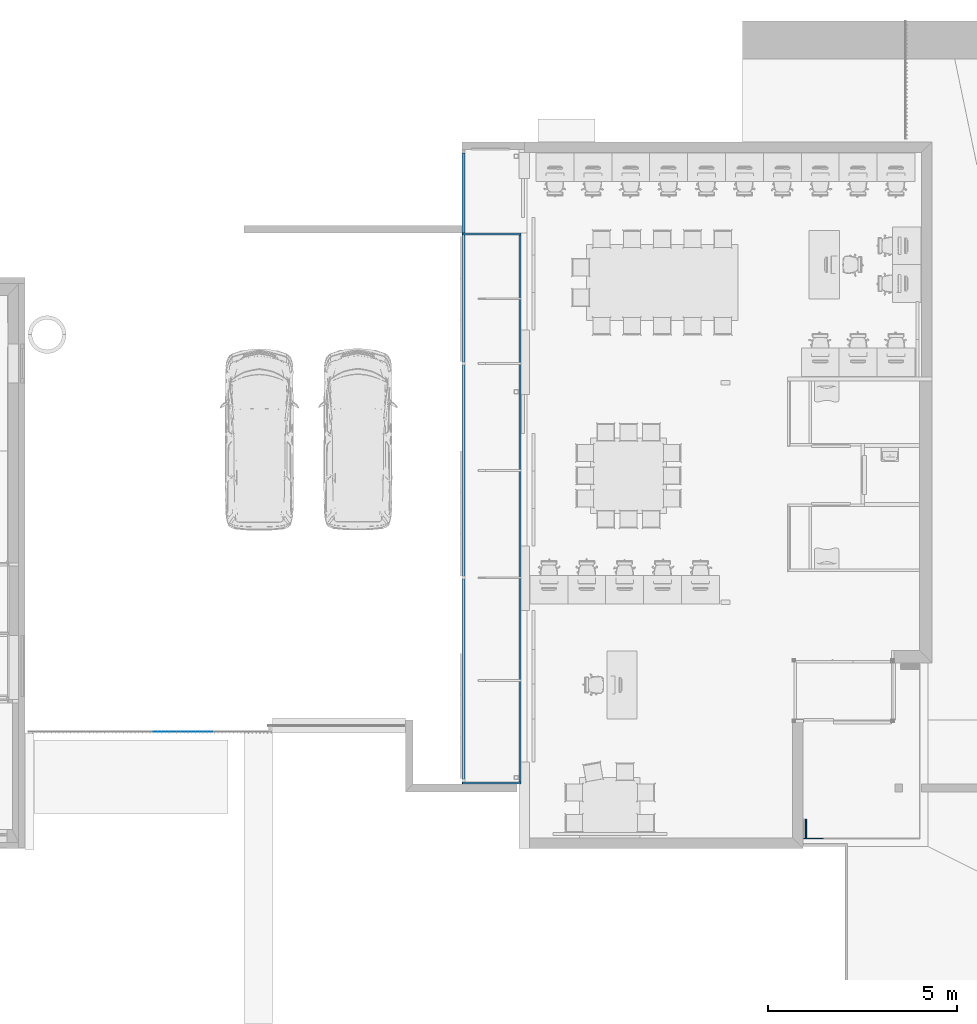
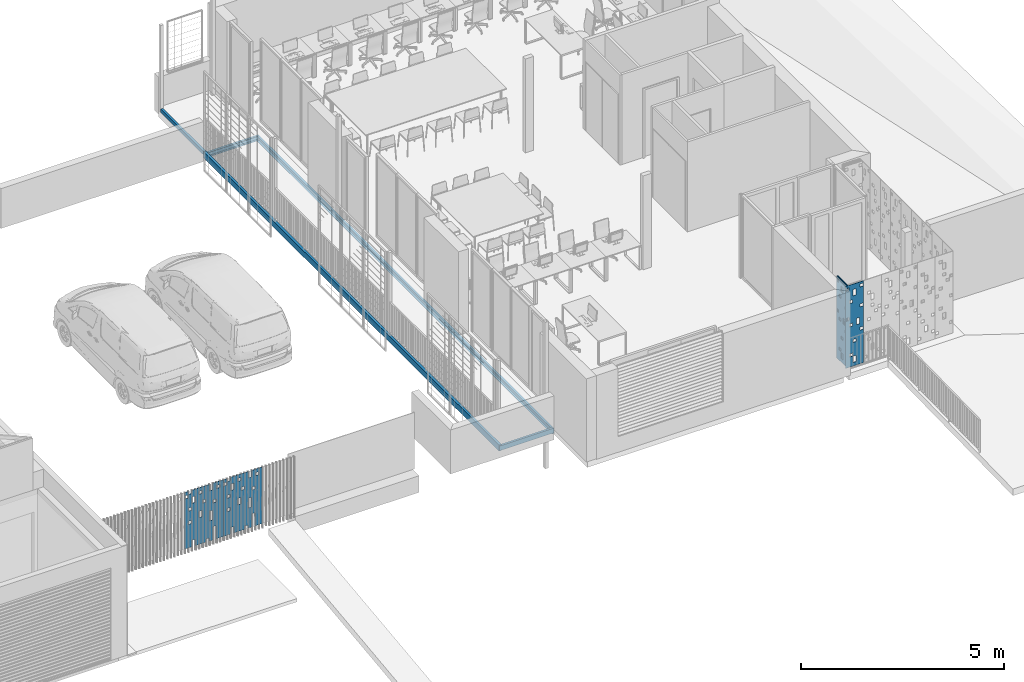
# One storey, part 6 of 51: 11 beams.
"""IFC2X3 building model written with IfcOpenShell, lengths in metres."""

from ifc_helpers import new_model, entity, si_unit, converted_unit, derived_unit, direction, frame, origin, place, context, subcontext, project, spatial, polyline, outline, extrude, material, type_object, element, save


model = new_model("IFC2X3")

# Units and contexts
model_context = context("Model", 3, precision=1e-05, world=origin(), true_north=direction((6.123031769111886e-17, 1.0)))
body_context = subcontext(model_context, "Body", "Model", "MODEL_VIEW")
ifc_project = project(units=[si_unit("LENGTHUNIT", "METRE"), si_unit("AREAUNIT", "SQUARE_METRE"), si_unit("VOLUMEUNIT", "CUBIC_METRE"), converted_unit("PLANEANGLEUNIT", "DEGREE", entity("IfcRatioMeasure", 0.017453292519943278), si_unit("PLANEANGLEUNIT", "RADIAN"), dimensions=[0, 0, 0, 0, 0, 0, 0]), si_unit("MASSUNIT", "GRAM", prefix="KILO"), derived_unit("MASSDENSITYUNIT", [(si_unit("MASSUNIT", "GRAM", prefix="KILO"), 1), (si_unit("LENGTHUNIT", "METRE"), -3)]), derived_unit("MOMENTOFINERTIAUNIT", [(si_unit("LENGTHUNIT", "METRE"), 4)]), si_unit("TIMEUNIT", "SECOND"), si_unit("FREQUENCYUNIT", "HERTZ"), si_unit("THERMODYNAMICTEMPERATUREUNIT", "DEGREE_CELSIUS"), derived_unit("THERMALTRANSMITTANCEUNIT", [(si_unit("MASSUNIT", "GRAM", prefix="KILO"), 1), (si_unit("THERMODYNAMICTEMPERATUREUNIT", "KELVIN"), -1), (si_unit("TIMEUNIT", "SECOND"), -3)]), derived_unit("THERMALCONDUCTANCEUNIT", [(si_unit("MASSUNIT", "GRAM", prefix="KILO"), 1), (si_unit("LENGTHUNIT", "METRE"), 1), (si_unit("THERMODYNAMICTEMPERATUREUNIT", "KELVIN"), -1), (si_unit("TIMEUNIT", "SECOND"), -3)]), derived_unit("VOLUMETRICFLOWRATEUNIT", [(si_unit("LENGTHUNIT", "METRE"), 3), (si_unit("TIMEUNIT", "SECOND"), -1)]), derived_unit("MASSFLOWRATEUNIT", [(si_unit("MASSUNIT", "GRAM", prefix="KILO"), 1), (si_unit("TIMEUNIT", "SECOND"), -1)]), derived_unit("ROTATIONALFREQUENCYUNIT", [(si_unit("TIMEUNIT", "SECOND"), -1)]), si_unit("ELECTRICCURRENTUNIT", "AMPERE"), si_unit("ELECTRICVOLTAGEUNIT", "VOLT"), si_unit("POWERUNIT", "WATT"), si_unit("FORCEUNIT", "NEWTON", prefix="KILO"), si_unit("ILLUMINANCEUNIT", "LUX"), si_unit("LUMINOUSFLUXUNIT", "LUMEN"), si_unit("LUMINOUSINTENSITYUNIT", "CANDELA"), derived_unit("USERDEFINED", [(si_unit("MASSUNIT", "GRAM", prefix="KILO"), -1), (si_unit("LENGTHUNIT", "METRE"), -2), (si_unit("TIMEUNIT", "SECOND"), 3), (si_unit("LUMINOUSFLUXUNIT", "LUMEN"), 1)]), derived_unit("USERDEFINED", [(si_unit("MASSUNIT", "GRAM", prefix="KILO"), 1), (si_unit("LENGTHUNIT", "METRE"), 3), (si_unit("TIMEUNIT", "SECOND"), -3), (si_unit("ELECTRICCURRENTUNIT", "AMPERE"), -2)]), derived_unit("USERDEFINED", [(si_unit("LENGTHUNIT", "METRE"), 2), (si_unit("TIMEUNIT", "SECOND"), -2)]), derived_unit("SOUNDPOWERUNIT", [(si_unit("MASSUNIT", "GRAM", prefix="KILO"), 1), (si_unit("LENGTHUNIT", "METRE"), 2), (si_unit("TIMEUNIT", "SECOND"), -3)]), derived_unit("SOUNDPRESSUREUNIT", [(si_unit("MASSUNIT", "GRAM", prefix="KILO"), 1), (si_unit("LENGTHUNIT", "METRE"), -1), (si_unit("TIMEUNIT", "SECOND"), -2)]), derived_unit("LINEARVELOCITYUNIT", [(si_unit("LENGTHUNIT", "METRE"), 1), (si_unit("TIMEUNIT", "SECOND"), -1)]), si_unit("PRESSUREUNIT", "PASCAL"), derived_unit("USERDEFINED", [(si_unit("LENGTHUNIT", "METRE"), -2), (si_unit("MASSUNIT", "GRAM", prefix="KILO"), 1), (si_unit("TIMEUNIT", "SECOND"), -2)]), derived_unit("LINEARFORCEUNIT", [(si_unit("MASSUNIT", "GRAM", prefix="KILO"), 1), (si_unit("LENGTHUNIT", "METRE"), 1), (si_unit("TIMEUNIT", "SECOND"), -2), (si_unit("LENGTHUNIT", "METRE"), -1)]), derived_unit("PLANARFORCEUNIT", [(si_unit("MASSUNIT", "GRAM", prefix="KILO"), 1), (si_unit("LENGTHUNIT", "METRE"), 1), (si_unit("TIMEUNIT", "SECOND"), -2), (si_unit("LENGTHUNIT", "METRE"), -2)]), derived_unit("SPECIFICHEATCAPACITYUNIT", [(si_unit("LENGTHUNIT", "METRE"), 2), (si_unit("TIMEUNIT", "SECOND"), -2), (si_unit("THERMODYNAMICTEMPERATUREUNIT", "KELVIN"), -1)]), derived_unit("VAPORPERMEABILITYUNIT", [(si_unit("TIMEUNIT", "SECOND"), 1), (si_unit("LENGTHUNIT", "METRE"), -1)]), derived_unit("DYNAMICVISCOSITYUNIT", [(si_unit("MASSUNIT", "GRAM", prefix="KILO"), 1), (si_unit("LENGTHUNIT", "METRE"), -1), (si_unit("TIMEUNIT", "SECOND"), -1)]), derived_unit("THERMALEXPANSIONCOEFFICIENTUNIT", [(si_unit("THERMODYNAMICTEMPERATUREUNIT", "KELVIN"), -1)])], contexts=[model_context])

# Site, building, storey
site_placement = place(None, origin())
site = spatial("IfcSite", under=ifc_project, at=site_placement, Name="Default", CompositionType="ELEMENT")
building_placement = place(site_placement, origin())
building = spatial("IfcBuilding", under=site, at=building_placement, CompositionType="ELEMENT")
storey_placement = place(building_placement, frame((0.0, 0.0, 3.06)))
storey = spatial("IfcBuildingStorey", under=building, at=storey_placement, Name="ÉTAGE", CompositionType="ELEMENT", Elevation=3.06)

# Beams
ifc_material = material(Name="Peinture - Gris foncé")
beam_type_1 = type_object("IfcBeamType", Name="Poutre-017 459038:Poutre-017 459038", PredefinedType="NOTDEFINED")
beam_1_placement = place(storey_placement, origin())
element("IfcBeam", 1, at=beam_1_placement, inside=storey, type_object=beam_type_1, material=ifc_material, Name="Poutre-017", ObjectType="Poutre-017 459038:Poutre-017 459038", context=body_context, shape_type="SweptSolid", body=[
    extrude(outline(polyline([(-0.25500000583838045, -1.2299999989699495), (0.25500000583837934, -1.2299999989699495), (0.25500000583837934, 1.2299999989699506), (-0.25500000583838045, 1.2299999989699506), (-0.25500000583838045, -1.2299999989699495)]), holes=[polyline([(-0.24499999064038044, -0.03500001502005), (-0.1550000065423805, -0.03500001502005), (-0.1550000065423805, -0.1250000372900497), (-0.24499999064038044, -0.1250000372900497), (-0.24499999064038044, -0.03500001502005)]), polyline([(0.15499996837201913, -1.0349999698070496), (0.24500002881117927, -1.0349999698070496), (0.24500002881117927, -1.1250000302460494), (0.15499996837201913, -1.1250000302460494), (0.15499996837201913, -1.0349999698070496)]), polyline([(0.14499999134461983, -0.33499997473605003), (0.14499999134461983, -0.4250000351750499), (0.05499996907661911, -0.4250000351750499), (0.05499996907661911, -0.33499997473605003), (0.14499999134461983, -0.33499997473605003)]), polyline([(0.04499999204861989, -0.7249999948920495), (-0.04499999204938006, -0.7249999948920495), (-0.04499999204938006, -0.5350000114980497), (0.04499999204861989, -0.5350000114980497), (0.04499999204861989, -0.7249999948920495)]), polyline([(-0.1550000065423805, -0.8350000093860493), (-0.1550000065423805, -0.9250000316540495), (-0.24499999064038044, -0.9250000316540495), (-0.24499999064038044, -0.8350000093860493), (-0.1550000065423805, -0.8350000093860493)]), polyline([(0.05499996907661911, 1.06499997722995), (0.14499999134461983, 1.06499997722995), (0.14499999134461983, 0.9749999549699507), (0.05499996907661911, 0.9749999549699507), (0.05499996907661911, 1.06499997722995)]), polyline([(0.15499996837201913, 0.06499998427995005), (0.24500002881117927, 0.06499998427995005), (0.24500002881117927, -0.02500007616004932), (0.15499996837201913, -0.02500007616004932), (0.15499996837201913, 0.06499998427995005)]), polyline([(0.14499999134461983, 0.17499996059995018), (0.05499996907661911, 0.17499996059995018), (0.05499996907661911, 0.26500002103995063), (0.14499999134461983, 0.26500002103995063), (0.14499999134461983, 0.17499996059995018)]), polyline([(-0.04499999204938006, 0.6650000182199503), (0.04499999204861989, 0.6650000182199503), (0.04499999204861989, 0.5749999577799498), (-0.04499999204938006, 0.5749999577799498), (-0.04499999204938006, 0.6650000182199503)]), polyline([(0.04499999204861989, 0.9650000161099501), (0.04499999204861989, 0.7749999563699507), (-0.04499999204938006, 0.7749999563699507), (-0.04499999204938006, 0.9650000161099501), (0.04499999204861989, 0.9650000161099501)]), polyline([(-0.05500000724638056, 0.37499995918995), (-0.14499999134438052, 0.37499995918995), (-0.14499999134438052, 0.4650000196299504), (-0.05500000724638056, 0.4650000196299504), (-0.05500000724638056, 0.37499995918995)]), polyline([(-0.1550000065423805, 0.5650000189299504), (-0.1550000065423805, 0.4749999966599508), (-0.24499999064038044, 0.4749999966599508), (-0.24499999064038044, 0.5650000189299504), (-0.1550000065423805, 0.5650000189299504)])]), frame((148.990752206, 8.10720949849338, 2.460000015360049), z_axis=(1.0, 0.0, 0.0), x_axis=(0.0, 1.0, 0.0)), (0.0, 0.0, 1.0), 0.009999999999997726),
])
beam_type_2 = type_object("IfcBeamType", Name="Poutre-017 458855:Poutre-017 458855", PredefinedType="NOTDEFINED")
beam_2_placement = place(storey_placement, origin())
element("IfcBeam", 2, at=beam_2_placement, inside=storey, type_object=beam_type_2, material=ifc_material, Name="Poutre-017", ObjectType="Poutre-017 458855:Poutre-017 458855", context=body_context, shape_type="SweptSolid", body=[
    extrude(outline(polyline([(-1.2299999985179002, -0.25500001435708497), (1.2299999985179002, -0.25500001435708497), (1.2299999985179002, 0.25500001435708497), (-1.2299999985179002, 0.25500001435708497), (-1.2299999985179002, -0.25500001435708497)]), holes=[polyline([(0.42500001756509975, -0.24500001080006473), (0.33499998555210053, -0.24500001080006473), (0.33499998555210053, -0.15499994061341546), (0.42500001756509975, -0.15499994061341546), (0.42500001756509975, -0.24500001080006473)]), polyline([(1.0349999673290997, -0.15499994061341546), (1.1249999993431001, -0.15499994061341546), (1.1249999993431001, -0.24500001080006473), (1.0349999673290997, -0.24500001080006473), (1.0349999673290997, -0.15499994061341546)]), polyline([(0.5349999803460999, -0.1449999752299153), (0.5349999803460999, -0.054999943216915), (0.6250000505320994, -0.054999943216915), (0.6250000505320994, -0.1449999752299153), (0.5349999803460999, -0.1449999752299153)]), polyline([(0.7350000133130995, 0.04499997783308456), (0.9250000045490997, 0.04499997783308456), (0.9250000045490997, -0.044999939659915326), (0.7350000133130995, -0.044999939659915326), (0.7350000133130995, 0.04499997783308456)]), polyline([(0.4349999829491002, 0.154999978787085), (0.4349999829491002, 0.2450000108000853), (0.5250000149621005, 0.2450000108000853), (0.5250000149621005, 0.154999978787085), (0.4349999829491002, 0.154999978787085)]), polyline([(0.9349999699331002, 0.154999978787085), (0.9349999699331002, 0.2450000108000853), (1.0250000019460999, 0.2450000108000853), (1.0250000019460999, 0.154999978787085), (0.9349999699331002, 0.154999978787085)]), polyline([(-0.7749999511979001, -0.1449999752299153), (-0.8649999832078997, -0.1449999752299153), (-0.8649999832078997, -0.054999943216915), (-0.7749999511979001, -0.054999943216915), (-0.7749999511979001, -0.1449999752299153)]), polyline([(-0.06500004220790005, -0.1449999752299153), (-0.06500004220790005, -0.054999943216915), (0.024999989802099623, -0.054999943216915), (0.024999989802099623, -0.1449999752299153), (-0.06500004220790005, -0.1449999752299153)]), polyline([(-0.4650000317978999, 0.04499997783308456), (-0.3749999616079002, 0.04499997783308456), (-0.3749999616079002, -0.044999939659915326), (-0.4650000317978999, -0.044999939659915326), (-0.4650000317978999, 0.04499997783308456)]), polyline([(-0.5749999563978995, -0.044999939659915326), (-0.7650000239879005, -0.044999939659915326), (-0.7650000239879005, 0.04499997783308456), (-0.5749999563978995, 0.04499997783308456), (-0.5749999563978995, -0.044999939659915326)]), polyline([(-0.17499996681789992, 0.055000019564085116), (-0.2649999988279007, 0.055000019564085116), (-0.2649999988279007, 0.14499997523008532), (-0.17499996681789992, 0.14499997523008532), (-0.17499996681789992, 0.055000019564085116)]), polyline([(-0.27499996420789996, 0.154999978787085), (-0.3649999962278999, 0.154999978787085), (-0.3649999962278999, 0.2450000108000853), (-0.27499996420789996, 0.2450000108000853), (-0.27499996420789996, 0.154999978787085)])]), frame((148.97575220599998, 8.107209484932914, 2.4600000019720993), z_axis=(1.0, 0.0, 0.0), x_axis=(0.0, 0.0, -1.0)), (0.0, 0.0, 1.0), 0.009999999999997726),
])
beam_type_3 = type_object("IfcBeamType", Name="Poutre-017 458672:Poutre-017 458672", PredefinedType="NOTDEFINED")
beam_3_placement = place(storey_placement, origin())
element("IfcBeam", 3, at=beam_3_placement, inside=storey, type_object=beam_type_3, material=ifc_material, Name="Poutre-017", ObjectType="Poutre-017 458672:Poutre-017 458672", context=body_context, shape_type="SweptSolid", body=[
    extrude(outline(polyline([(-0.25499999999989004, -1.2299999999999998), (0.2549999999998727, -1.2299999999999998), (0.2549999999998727, 1.2299999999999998), (-0.25499999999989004, 1.2299999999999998), (-0.25499999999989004, -1.2299999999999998)]), holes=[polyline([(0.14499996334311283, -0.9249999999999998), (0.05499996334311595, -0.9249999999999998), (0.05499996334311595, -0.8349999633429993), (0.14499996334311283, -0.8349999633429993), (0.14499996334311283, -0.9249999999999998)]), polyline([(0.044999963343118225, -0.43499996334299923), (0.044999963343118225, -0.5250000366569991), (-0.04499999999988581, -0.5250000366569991), (-0.04499999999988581, -0.43499996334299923), (0.044999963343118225, -0.43499996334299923)]), polyline([(0.044999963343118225, -1.1250000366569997), (-0.04499999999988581, -1.1250000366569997), (-0.04499999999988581, -0.9349999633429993), (0.044999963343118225, -0.9349999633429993), (0.044999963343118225, -1.1250000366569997)]), polyline([(-0.15499999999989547, -0.13499999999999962), (-0.15499999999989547, -0.22499999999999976), (-0.24499999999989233, -0.22499999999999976), (-0.24499999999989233, -0.13499999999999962), (-0.15499999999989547, -0.13499999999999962)]), polyline([(-0.04499999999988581, 1.0650000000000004), (0.044999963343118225, 1.0650000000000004), (0.044999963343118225, 0.8750000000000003), (-0.04499999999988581, 0.8750000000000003), (-0.04499999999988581, 1.0650000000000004)]), polyline([(0.244999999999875, 1.1650000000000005), (0.244999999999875, 1.0749999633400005), (0.15499996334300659, 1.0749999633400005), (0.15499996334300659, 1.1650000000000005), (0.244999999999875, 1.1650000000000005)]), polyline([(-0.15499999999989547, 1.0749999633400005), (-0.24499999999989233, 1.0749999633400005), (-0.24499999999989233, 1.1650000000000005), (-0.15499999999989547, 1.1650000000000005), (-0.15499999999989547, 1.0749999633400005)]), polyline([(0.244999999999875, 0.1750000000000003), (0.15499996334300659, 0.1750000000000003), (0.15499996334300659, 0.2650000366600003), (0.244999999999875, 0.2650000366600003), (0.244999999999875, 0.1750000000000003)]), polyline([(0.14499996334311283, -0.025000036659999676), (0.05499996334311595, -0.025000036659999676), (0.05499996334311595, 0.06500000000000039), (0.14499996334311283, 0.06500000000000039), (0.14499996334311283, -0.025000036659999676)]), polyline([(0.14499996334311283, 0.6749999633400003), (0.05499996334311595, 0.6749999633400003), (0.05499996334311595, 0.7650000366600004), (0.14499996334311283, 0.7650000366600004), (0.14499996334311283, 0.6749999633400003)]), polyline([(-0.055000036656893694, -0.02499999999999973), (-0.14499999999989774, -0.02499999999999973), (-0.14499999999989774, 0.16500003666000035), (-0.055000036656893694, 0.16500003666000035), (-0.055000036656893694, -0.02499999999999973)]), polyline([(-0.15499999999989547, 0.5650000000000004), (-0.15499999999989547, 0.4750000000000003), (-0.24499999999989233, 0.4750000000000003), (-0.24499999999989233, 0.5650000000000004), (-0.15499999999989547, 0.5650000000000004)])]), frame((149.1707522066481, 7.85220950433, 2.459999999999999), z_axis=(0.0, 1.0, 0.0), x_axis=(-1.0, 0.0, 0.0)), (0.0, 0.0, 1.0), 0.009999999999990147),
])
beam_4_placement = place(storey_placement, origin())
element("IfcBeam", 4, at=beam_4_placement, inside=storey, type_object=beam_type_3, material=ifc_material, Name="Poutre-017", ObjectType="Poutre-017 458672:Poutre-017 458672", context=body_context, shape_type="SweptSolid", body=[
    extrude(outline(polyline([(-0.2549999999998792, -1.2299999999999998), (0.2549999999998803, -1.2299999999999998), (0.2549999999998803, 1.2299999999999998), (-0.2549999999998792, 1.2299999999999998), (-0.2549999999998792, -1.2299999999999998)]), holes=[polyline([(0.1449999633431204, -0.9249999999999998), (0.05499996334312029, -0.9249999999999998), (0.05499996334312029, -0.8349999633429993), (0.1449999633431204, -0.8349999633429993), (0.1449999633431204, -0.9249999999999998)]), polyline([(0.04499996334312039, -0.43499996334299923), (0.04499996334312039, -0.5250000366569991), (-0.04499999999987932, -0.5250000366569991), (-0.04499999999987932, -0.43499996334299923), (0.04499996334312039, -0.43499996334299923)]), polyline([(0.04499996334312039, -1.1250000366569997), (-0.04499999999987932, -1.1250000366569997), (-0.04499999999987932, -0.9349999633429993), (0.04499996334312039, -0.9349999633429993), (0.04499996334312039, -1.1250000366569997)]), polyline([(-0.1549999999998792, -0.13499999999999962), (-0.1549999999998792, -0.22499999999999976), (-0.24499999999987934, -0.22499999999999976), (-0.24499999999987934, -0.13499999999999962), (-0.1549999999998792, -0.13499999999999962)]), polyline([(-0.04499999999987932, 1.0650000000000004), (0.04499996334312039, 1.0650000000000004), (0.04499996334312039, 0.8750000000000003), (-0.04499999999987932, 0.8750000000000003), (-0.04499999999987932, 1.0650000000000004)]), polyline([(0.24499999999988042, 1.1650000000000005), (0.24499999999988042, 1.0749999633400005), (0.15499996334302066, 1.0749999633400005), (0.15499996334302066, 1.1650000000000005), (0.24499999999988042, 1.1650000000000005)]), polyline([(-0.1549999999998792, 1.0749999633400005), (-0.24499999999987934, 1.0749999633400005), (-0.24499999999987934, 1.1650000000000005), (-0.1549999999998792, 1.1650000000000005), (-0.1549999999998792, 1.0749999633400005)]), polyline([(0.24499999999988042, 0.1750000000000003), (0.15499996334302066, 0.1750000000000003), (0.15499996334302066, 0.2650000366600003), (0.24499999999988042, 0.2650000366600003), (0.24499999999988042, 0.1750000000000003)]), polyline([(0.1449999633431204, -0.025000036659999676), (0.05499996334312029, -0.025000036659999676), (0.05499996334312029, 0.06500000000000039), (0.1449999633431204, 0.06500000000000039), (0.1449999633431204, -0.025000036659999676)]), polyline([(0.1449999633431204, 0.6749999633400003), (0.05499996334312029, 0.6749999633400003), (0.05499996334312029, 0.7650000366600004), (0.1449999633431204, 0.7650000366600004), (0.1449999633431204, 0.6749999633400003)]), polyline([(-0.055000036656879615, -0.02499999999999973), (-0.14499999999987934, -0.02499999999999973), (-0.14499999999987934, 0.16500003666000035), (-0.055000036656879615, 0.16500003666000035), (-0.055000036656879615, -0.02499999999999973)]), polyline([(-0.1549999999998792, 0.5650000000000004), (-0.1549999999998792, 0.4750000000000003), (-0.24499999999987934, 0.4750000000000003), (-0.24499999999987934, 0.5650000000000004), (-0.1549999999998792, 0.5650000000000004)])]), frame((148.960752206, 8.10720948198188, 2.459999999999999), z_axis=(1.0, 0.0, 0.0), x_axis=(0.0, 1.0, 0.0)), (0.0, 0.0, 1.0), 0.009999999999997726),
])
beam_type_4 = type_object("IfcBeamType", Name="Poutre-017 448176:Poutre-017 448176", PredefinedType="NOTDEFINED")
beam_5_placement = place(storey_placement, origin())
element("IfcBeam", 5, at=beam_5_placement, inside=storey, type_object=beam_type_4, material=ifc_material, Name="Poutre-017", ObjectType="Poutre-017 448176:Poutre-017 448176", context=body_context, shape_type="SweptSolid", body=[
    extrude(outline(polyline([(-0.5333333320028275, -0.9587500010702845), (-0.42833333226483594, -0.9587500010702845), (-0.42833333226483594, -0.8637500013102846), (-0.3383333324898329, -0.8637500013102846), (-0.3383333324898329, -0.9587500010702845), (0.1716666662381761, -0.9587500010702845), (0.1716666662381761, -0.7637500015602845), (0.26166666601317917, -0.7637500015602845), (0.26166666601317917, -0.9587500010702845), (0.5666666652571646, -0.9587500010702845), (0.5666666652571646, 0.7412499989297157), (0.3616666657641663, 0.7412499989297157), (0.3616666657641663, 0.3462499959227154), (0.2716666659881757, 0.3462499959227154), (0.2716666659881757, 0.7412499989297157), (0.1616666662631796, 0.7412499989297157), (0.1616666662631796, 0.6462499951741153), (0.07166666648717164, 0.6462499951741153), (0.07166666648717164, 0.7412499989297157), (-0.23833333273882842, 0.7412499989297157), (-0.23833333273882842, 0.5462500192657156), (-0.32833333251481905, 0.5462500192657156), (-0.32833333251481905, 0.7412499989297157), (-0.5333333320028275, 0.7412499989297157), (-0.5333333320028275, -0.9587500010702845)]), holes=[polyline([(-0.42833333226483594, 0.036249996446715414), (-0.3383333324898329, 0.036249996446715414), (-0.3383333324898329, -0.0537500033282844), (-0.42833333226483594, -0.0537500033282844), (-0.42833333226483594, 0.036249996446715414)]), polyline([(-0.42833333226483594, -0.4537500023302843), (-0.42833333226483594, -0.36375000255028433), (-0.3383333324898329, -0.36375000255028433), (-0.3383333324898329, -0.4537500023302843), (-0.42833333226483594, -0.4537500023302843)]), polyline([(-0.0383333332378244, -0.2537500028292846), (-0.12833333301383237, -0.2537500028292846), (-0.12833333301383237, -0.06375000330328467), (-0.0383333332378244, -0.06375000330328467), (-0.0383333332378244, -0.2537500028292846)]), polyline([(0.1716666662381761, -0.15375000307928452), (0.1716666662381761, 0.13624999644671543), (0.2616666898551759, 0.13624999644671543), (0.2616666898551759, -0.15375000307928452), (0.1716666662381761, -0.15375000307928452)]), polyline([(0.2716666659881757, -0.4537500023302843), (0.2716666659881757, -0.36375000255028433), (0.3616666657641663, -0.36375000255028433), (0.3616666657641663, -0.4537500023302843), (0.2716666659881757, -0.4537500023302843)]), polyline([(-0.5283333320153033, -0.7637500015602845), (-0.43833333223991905, -0.7637500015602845), (-0.43833333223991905, -0.8537500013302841), (-0.5283333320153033, -0.8537500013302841), (-0.5283333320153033, -0.7637500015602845)]), polyline([(-0.23833333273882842, -0.7537500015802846), (-0.32833333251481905, -0.7537500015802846), (-0.32833333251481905, -0.5637500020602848), (-0.23833333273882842, -0.5637500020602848), (-0.23833333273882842, -0.7537500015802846)]), polyline([(-0.12833333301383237, -0.7637500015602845), (-0.0383333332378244, -0.7637500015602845), (-0.0383333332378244, -0.8537500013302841), (-0.12833333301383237, -0.8537500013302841), (-0.12833333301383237, -0.7637500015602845)]), polyline([(-0.02833333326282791, -0.5537500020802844), (-0.02833333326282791, -0.4637500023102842), (0.06166666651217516, -0.4637500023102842), (0.06166666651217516, -0.5537500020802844), (-0.02833333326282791, -0.5537500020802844)]), polyline([(0.46166666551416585, -0.8537500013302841), (0.3716666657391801, -0.8537500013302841), (0.3716666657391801, -0.7637500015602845), (0.46166666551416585, -0.7637500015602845), (0.46166666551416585, -0.8537500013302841)])]), frame((132.2990856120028, 10.667209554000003, 0.8412499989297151), z_axis=(0.0, 1.0, 0.0), x_axis=(1.0, 0.0, 0.0)), (0.0, 0.0, 1.0), 0.009999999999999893),
])
beam_6_placement = place(storey_placement, origin())
element("IfcBeam", 6, at=beam_6_placement, inside=storey, type_object=beam_type_4, material=ifc_material, Name="Poutre-017", ObjectType="Poutre-017 448176:Poutre-017 448176", context=body_context, shape_type="SweptSolid", body=[
    extrude(outline(polyline([(-0.5333333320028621, -0.9587500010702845), (-0.4283333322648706, -0.9587500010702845), (-0.4283333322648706, -0.8637500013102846), (-0.3383333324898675, -0.8637500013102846), (-0.3383333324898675, -0.9587500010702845), (0.17166666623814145, -0.9587500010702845), (0.17166666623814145, -0.7637500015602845), (0.26166666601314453, -0.7637500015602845), (0.26166666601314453, -0.9587500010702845), (0.5666666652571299, -0.9587500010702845), (0.5666666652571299, 0.7412499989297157), (0.36166666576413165, 0.7412499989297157), (0.36166666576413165, 0.3462499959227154), (0.271666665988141, 0.3462499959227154), (0.271666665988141, 0.7412499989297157), (0.16166666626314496, 0.7412499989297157), (0.16166666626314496, 0.6462499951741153), (0.07166666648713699, 0.6462499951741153), (0.07166666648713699, 0.7412499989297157), (-0.23833333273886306, 0.7412499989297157), (-0.23833333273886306, 0.5462500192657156), (-0.3283333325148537, 0.5462500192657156), (-0.3283333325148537, 0.7412499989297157), (-0.5333333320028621, 0.7412499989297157), (-0.5333333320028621, -0.9587500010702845)]), holes=[polyline([(-0.4283333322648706, 0.036249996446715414), (-0.3383333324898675, 0.036249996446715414), (-0.3383333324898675, -0.0537500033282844), (-0.4283333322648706, -0.0537500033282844), (-0.4283333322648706, 0.036249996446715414)]), polyline([(-0.4283333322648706, -0.4537500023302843), (-0.4283333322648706, -0.36375000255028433), (-0.3383333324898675, -0.36375000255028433), (-0.3383333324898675, -0.4537500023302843), (-0.4283333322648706, -0.4537500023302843)]), polyline([(-0.038333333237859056, -0.2537500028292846), (-0.128333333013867, -0.2537500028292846), (-0.128333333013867, -0.06375000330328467), (-0.038333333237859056, -0.06375000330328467), (-0.038333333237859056, -0.2537500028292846)]), polyline([(0.17166666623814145, -0.15375000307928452), (0.17166666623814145, 0.13624999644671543), (0.26166668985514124, 0.13624999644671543), (0.26166668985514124, -0.15375000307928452), (0.17166666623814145, -0.15375000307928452)]), polyline([(0.271666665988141, -0.4537500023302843), (0.271666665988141, -0.36375000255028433), (0.36166666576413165, -0.36375000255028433), (0.36166666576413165, -0.4537500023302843), (0.271666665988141, -0.4537500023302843)]), polyline([(-0.5283333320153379, -0.7637500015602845), (-0.4383333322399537, -0.7637500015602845), (-0.4383333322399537, -0.8537500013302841), (-0.5283333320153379, -0.8537500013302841), (-0.5283333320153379, -0.7637500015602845)]), polyline([(-0.23833333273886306, -0.7537500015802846), (-0.3283333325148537, -0.7537500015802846), (-0.3283333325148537, -0.5637500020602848), (-0.23833333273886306, -0.5637500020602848), (-0.23833333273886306, -0.7537500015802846)]), polyline([(-0.128333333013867, -0.7637500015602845), (-0.038333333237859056, -0.7637500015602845), (-0.038333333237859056, -0.8537500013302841), (-0.128333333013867, -0.8537500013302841), (-0.128333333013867, -0.7637500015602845)]), polyline([(-0.028333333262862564, -0.5537500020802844), (-0.028333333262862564, -0.4637500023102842), (0.061666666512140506, -0.4637500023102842), (0.061666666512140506, -0.5537500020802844), (-0.028333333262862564, -0.5537500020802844)]), polyline([(0.4616666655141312, -0.8537500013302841), (0.3716666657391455, -0.8537500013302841), (0.3716666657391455, -0.7637500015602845), (0.4616666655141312, -0.7637500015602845), (0.4616666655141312, -0.8537500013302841)])]), frame((133.39908561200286, 10.667209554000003, 0.8412499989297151), z_axis=(0.0, 1.0, 0.0), x_axis=(1.0, 0.0, 0.0)), (0.0, 0.0, 1.0), 0.009999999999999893),
])
beam_type_5 = type_object("IfcBeamType", Name="Poutre-019 150414:Poutre-019 150414", PredefinedType="NOTDEFINED")
beam_7_placement = place(storey_placement, origin())
element("IfcBeam", 7, at=beam_7_placement, inside=storey, type_object=beam_type_5, material=ifc_material, Name="Poutre-019", ObjectType="Poutre-019 150414:Poutre-019 150414", context=body_context, shape_type="SweptSolid", body=[
    extrude(outline(polyline([(0.06300000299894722, -0.02850000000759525), (0.0700000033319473, -0.02850000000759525), (0.0700000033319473, 0.03150000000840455), (-0.07000000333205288, 0.03150000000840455), (-0.07000000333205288, -0.02850000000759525), (-0.06300000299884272, -0.02850000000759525), (-0.06300000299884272, 0.02550000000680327), (0.06300000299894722, 0.02550000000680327), (0.06300000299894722, -0.02850000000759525)])), frame((139.91075227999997, 23.805918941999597, 1.1099999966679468), z_axis=(1.0, 0.0, 0.0), x_axis=(0.0, 0.0, -1.0)), (0.0, 0.0, 1.0), 1.5500001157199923),
])
beam_type_6 = type_object("IfcBeamType", Name="Poutre-019 150363:Poutre-019 150363", PredefinedType="NOTDEFINED")
beam_8_placement = place(storey_placement, origin())
element("IfcBeam", 8, at=beam_8_placement, inside=storey, type_object=beam_type_6, material=ifc_material, Name="Poutre-019", ObjectType="Poutre-019 150363:Poutre-019 150363", context=body_context, shape_type="SweptSolid", body=[
    extrude(outline(polyline([(-0.031500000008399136, -0.0700000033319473), (0.028500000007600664, -0.0700000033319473), (0.028500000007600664, -0.06300000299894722), (-0.02550000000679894, -0.06300000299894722), (-0.02550000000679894, 0.06300000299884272), (0.028500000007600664, 0.06300000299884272), (0.028500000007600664, 0.07000000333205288), (-0.031500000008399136, 0.07000000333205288), (-0.031500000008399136, -0.0700000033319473)])), frame((139.91075227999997, 9.3184999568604, 1.1099999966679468), z_axis=(1.0, 0.0, 0.0), x_axis=(0.0, 1.0, 0.0)), (0.0, 0.0, 1.0), 1.5500001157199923),
])
beam_type_7 = type_object("IfcBeamType", Name="Poutre-019 150027:Poutre-019 150027", PredefinedType="NOTDEFINED")
beam_9_placement = place(storey_placement, origin())
element("IfcBeam", 9, at=beam_9_placement, inside=storey, type_object=beam_type_7, material=ifc_material, Name="Poutre-019", ObjectType="Poutre-019 150027:Poutre-019 150027", context=body_context, shape_type="SweptSolid", body=[
    extrude(outline(polyline([(-0.028500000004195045, -0.07200003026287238), (-0.028500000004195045, -0.0800000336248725), (0.03150000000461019, -0.0800000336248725), (0.03150000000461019, 0.08000003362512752), (-0.028500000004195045, 0.08000003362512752), (-0.028500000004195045, 0.07200003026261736), (0.02550000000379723, 0.07200003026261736), (0.02550000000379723, -0.07200003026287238), (-0.028500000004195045, -0.07200003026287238)])), frame((141.4292523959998, 9.2872095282, 1.0999999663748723), z_axis=(0.0, -1.0, 0.0), x_axis=(1.0, 0.0, 0.0)), (0.0, 0.0, -1.0), 14.549999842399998),
])
beam_type_8 = type_object("IfcBeamType", Name="Poutre-019 56232:Poutre-019 56232", PredefinedType="NOTDEFINED")
beam_10_placement = place(storey_placement, origin())
element("IfcBeam", 10, at=beam_10_placement, inside=storey, type_object=beam_type_8, material=ifc_material, Name="Poutre-019", ObjectType="Poutre-019 56232:Poutre-019 56232", context=body_context, shape_type="SweptSolid", body=[
    extrude(outline(polyline([(0.04500000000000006, -0.03325000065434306), (0.05, -0.03325000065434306), (0.05, 0.036750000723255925), (-0.05, 0.036750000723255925), (-0.05, -0.03325000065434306), (-0.04500000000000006, -0.03325000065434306), (-0.04500000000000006, 0.029750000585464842), (0.04500000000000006, 0.029750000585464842), (0.04500000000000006, -0.03325000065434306)])), frame((139.93750236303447, 23.8372093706, 1.1599999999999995), z_axis=(0.0, 1.0, 0.0), x_axis=(0.0, 0.0, -1.0)), (0.0, 0.0, 1.0), 2.110000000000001),
])
beam_type_9 = type_object("IfcBeamType", Name="Poutre-019 19330:Poutre-019 19330", PredefinedType="NOTDEFINED")
beam_11_placement = place(storey_placement, origin())
element("IfcBeam", 11, at=beam_11_placement, inside=storey, type_object=beam_type_9, material=ifc_material, Name="Poutre-019", ObjectType="Poutre-019 19330:Poutre-019 19330", context=body_context, shape_type="SweptSolid", body=[
    extrude(outline(polyline([(-0.09000029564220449, -0.036750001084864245), (0.09000029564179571, -0.036750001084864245), (0.09000029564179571, 0.03325000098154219), (0.08100026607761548, 0.03325000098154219), (0.08100026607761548, -0.029750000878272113), (-0.08100026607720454, -0.029750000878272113), (-0.08100026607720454, 0.03325000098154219), (-0.09000029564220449, 0.03325000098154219), (-0.09000029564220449, -0.036750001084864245)])), frame((139.93750236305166, 9.2872095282, 1.1199997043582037), z_axis=(0.0, 1.0, 0.0), x_axis=(0.0, 0.0, 1.0)), (0.0, 0.0, 1.0), 14.549999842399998),
])

save(model, "model.ifc")
